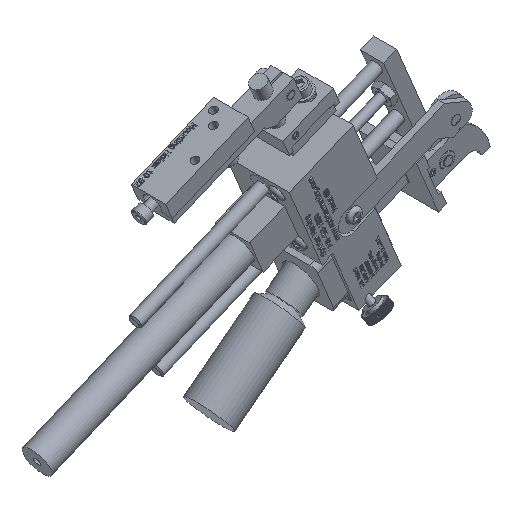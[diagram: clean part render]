
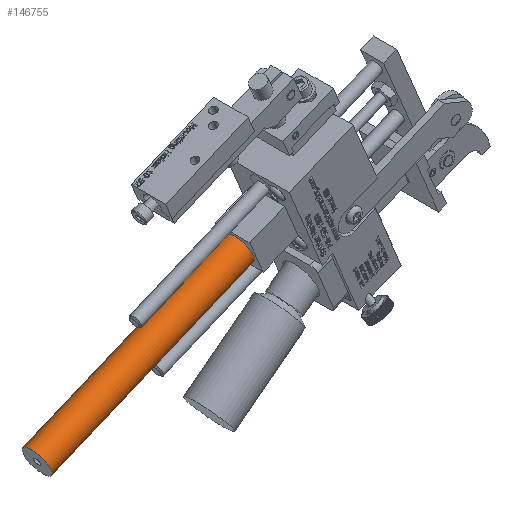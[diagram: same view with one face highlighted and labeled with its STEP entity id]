
A CAD part, isometric view. The second image highlights one B-rep face of the part: STEP entity #146755.
In plain terms, the highlighted cylindrical face has radius 7.747 mm (diameter 15.494 mm), a full revolution.
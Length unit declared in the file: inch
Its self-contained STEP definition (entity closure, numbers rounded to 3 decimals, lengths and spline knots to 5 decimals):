
#146728=CARTESIAN_POINT('',(0.2202,0.36387,0.375));
#146729=DIRECTION('',(1.0,0.,0.0));
#146730=DIRECTION('',(0.0,0.0,1.0));
#146731=AXIS2_PLACEMENT_3D('',#146728,#146729,#146730);
#146732=CYLINDRICAL_SURFACE('',#146731,0.305);
#146733=CARTESIAN_POINT('',(4.9702,0.36387,0.07));
#146734=VERTEX_POINT('',#146733);
#146735=CARTESIAN_POINT('',(4.9702,0.36387,0.375));
#146736=DIRECTION('',(-1.0,0.0,0.0));
#146737=DIRECTION('',(0.0,0.0,1.0));
#146738=AXIS2_PLACEMENT_3D('',#146735,#146736,#146737);
#146739=CIRCLE('',#146738,0.305);
#146740=EDGE_CURVE('',#146734,#146734,#146739,.T.);
#146741=ORIENTED_EDGE('',*,*,#146740,.T.);
#146742=EDGE_LOOP('',(#146741));
#146743=FACE_OUTER_BOUND('',#146742,.T.);
#146744=CARTESIAN_POINT('',(0.2202,0.36387,0.07));
#146745=VERTEX_POINT('',#146744);
#146746=CARTESIAN_POINT('',(0.2202,0.36387,0.375));
#146747=DIRECTION('',(-1.0,0.0,0.0));
#146748=DIRECTION('',(0.0,0.0,1.0));
#146749=AXIS2_PLACEMENT_3D('',#146746,#146747,#146748);
#146750=CIRCLE('',#146749,0.305);
#146751=EDGE_CURVE('',#146745,#146745,#146750,.T.);
#146752=ORIENTED_EDGE('',*,*,#146751,.F.);
#146753=EDGE_LOOP('',(#146752));
#146754=FACE_BOUND('',#146753,.T.);
#146755=ADVANCED_FACE('',(#146743,#146754),#146732,.T.);
